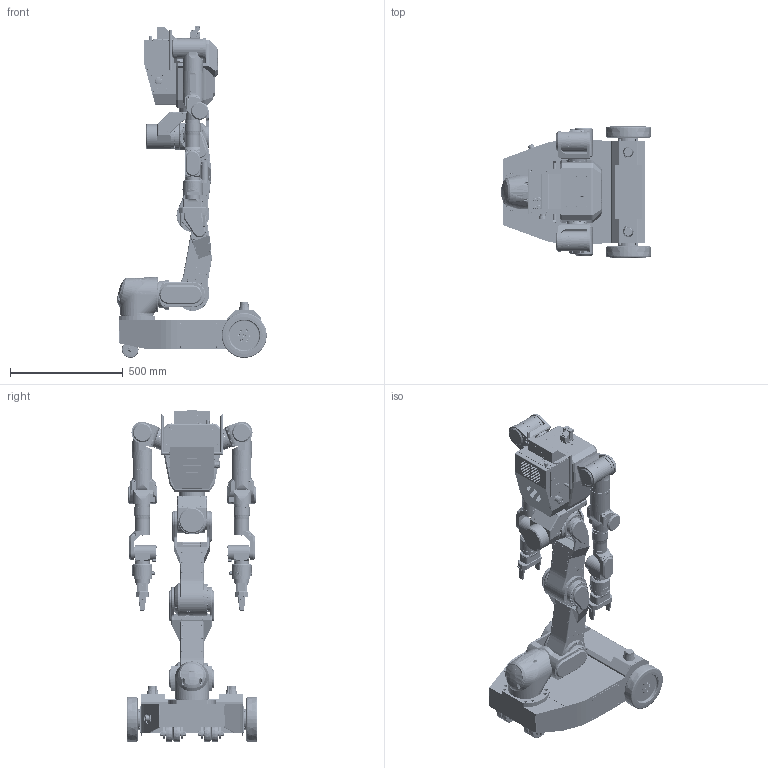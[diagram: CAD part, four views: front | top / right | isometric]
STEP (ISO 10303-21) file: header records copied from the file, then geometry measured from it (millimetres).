
FILE_DESCRIPTION(/* description */ (''),/* implementation_level */ '2;1');
FILE_NAME(/* name */ 'RB-Y1_v1.0_3D_Power Grip_DD_KCs_260107.stp',/* time_stamp */ '2026-01-08T10:28:07+09:00',/* author */ ('KiWook.H'),/* organization */ (''),/* preprocessor_version */ 'ST-DEVELOPER v20',/* originating_system */ 'Autodesk Inventor 2025',/* authorisation */ '');
FILE_SCHEMA (('AUTOMOTIVE_DESIGN { 1 0 10303 214 3 1 1 }'));
Products named in the file (22): RB-Y1_v1.0_3D_Power Grip_DD_KCs_260107; 000_Base_v1.0; 001_AR_v1.0; 002_AP_v1.0; 003_KN_v1.0; 004_HP_v1.0; 005_HR_v1.0; 006_HY_v1.0; 007_SP_R_v1.0; 008_SR_R_v1.0; 009_SY_R_v1.0; 010_EL_R_v1.0; 011_WY1_R_v1.0; 012_WP_R_v1.0; 014_SP_L_v1.0; 015_SR_L_v1.0; 016_SY_L_v1.0; 017_EL_L_v1.0; 018_WY1_L_v1.0; 019_WP_L_v1.0; 020_TF_v1.0; 021_Gripper_Power_v1.0
Assembly tree (23 placements, depth 2):
  RB-Y1_v1.0_3D_Power Grip_DD_KCs_260107
    000_Base_v1.0
    001_AR_v1.0
    002_AP_v1.0
    003_KN_v1.0
    004_HP_v1.0
    005_HR_v1.0
    006_HY_v1.0
    007_SP_R_v1.0
    008_SR_R_v1.0
    009_SY_R_v1.0
    010_EL_R_v1.0
    011_WY1_R_v1.0
    012_WP_R_v1.0
    014_SP_L_v1.0
    015_SR_L_v1.0
    016_SY_L_v1.0
    017_EL_L_v1.0
    018_WY1_L_v1.0
    019_WP_L_v1.0
    020_TF_v1.0  x2
    021_Gripper_Power_v1.0  x2
Bounding box: 662.62 x 580 x 1470 mm (x, y, z)
Volume: 73469397.1 mm3; surface area: 4955556 mm2
Topology: 41 solids, 304 shells, 16493 faces, 42205 edges, 27337 vertices
Faces by surface type: plane 9089, cylinder 4516, cone 1726, torus 740, bspline 361, sphere 61
Full cylindrical faces by diameter (mm): 0.7 x16, 1.03 x16, 1.5 x10, 1.7 x10, 2 x29, 2.013 x4, 2.05 x12, 2.2 x13, 2.459 x64, 2.5 x27, 2.693 x10, 2.9 x2, 3 x140, 3.1 x10, 3.2 x26, 3.242 x13, 3.3 x8, 3.4 x29, 3.8 x4, 3.9 x1, 4 x83, 4.2 x8, 4.5 x22, 4.8 x6, 4.917 x8, 5 x120, 5.1 x4, 5.2 x6, 5.5 x98, 5.6 x4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
Entity records: 597089 total; most frequent: CARTESIAN_POINT 210776, ORIENTED_EDGE 78862, DIRECTION 76300, EDGE_CURVE 39431, AXIS2_PLACEMENT_3D 27859, VERTEX_POINT 25886, LINE 20582, VECTOR 20582
